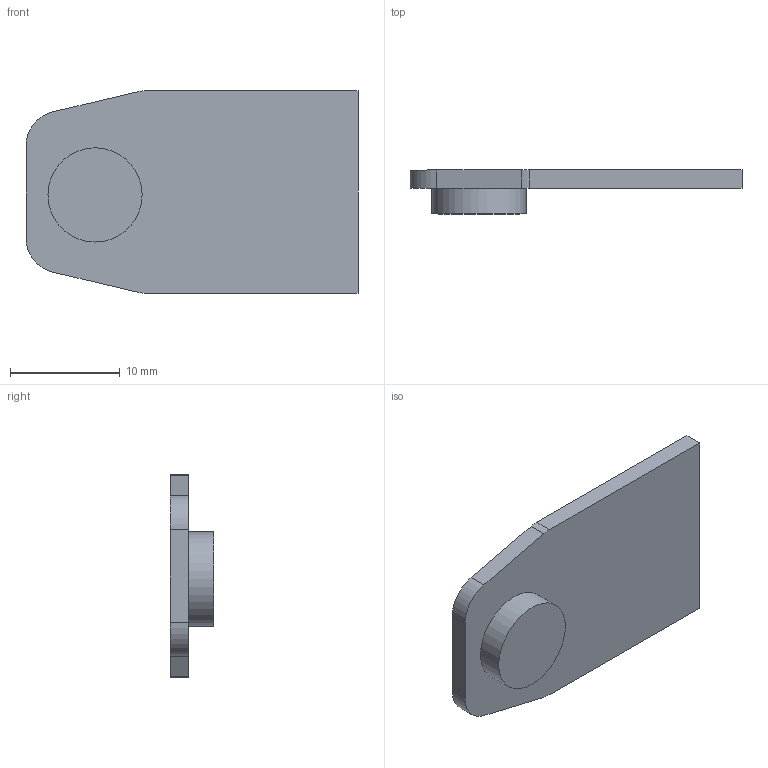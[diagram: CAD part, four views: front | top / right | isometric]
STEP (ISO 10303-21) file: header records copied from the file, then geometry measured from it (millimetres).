
FILE_DESCRIPTION(('FreeCAD Model'),'2;1');
FILE_NAME('D:/3d/magpul-menedez/step/locktab.step','2019-10-17T20:52:44' ,('Author'),(''),'Open CASCADE STEP processor 7.3','FreeCAD','Unknown' );
FILE_SCHEMA(('AUTOMOTIVE_DESIGN { 1 0 10303 214 1 1 1 1 }'));
Length unit declared in the file: millimetre
Products named in the file (1): Fusion
Bounding box: 30.3 x 4 x 18.47 mm (x, y, z)
Volume: 1012.7 mm3; surface area: 1276.1 mm2
Topology: 1 solids, 1 shells, 14 faces, 33 edges, 22 vertices
Faces by surface type: plane 9, cylinder 5
Full cylindrical faces by diameter (mm): 8.6 x1
Entity records: 962 total; most frequent: CARTESIAN_POINT 166, DIRECTION 134, LINE 79, VECTOR 79, ORIENTED_EDGE 66, PCURVE 66, DEFINITIONAL_REPRESENTATION 66, EDGE_CURVE 33
